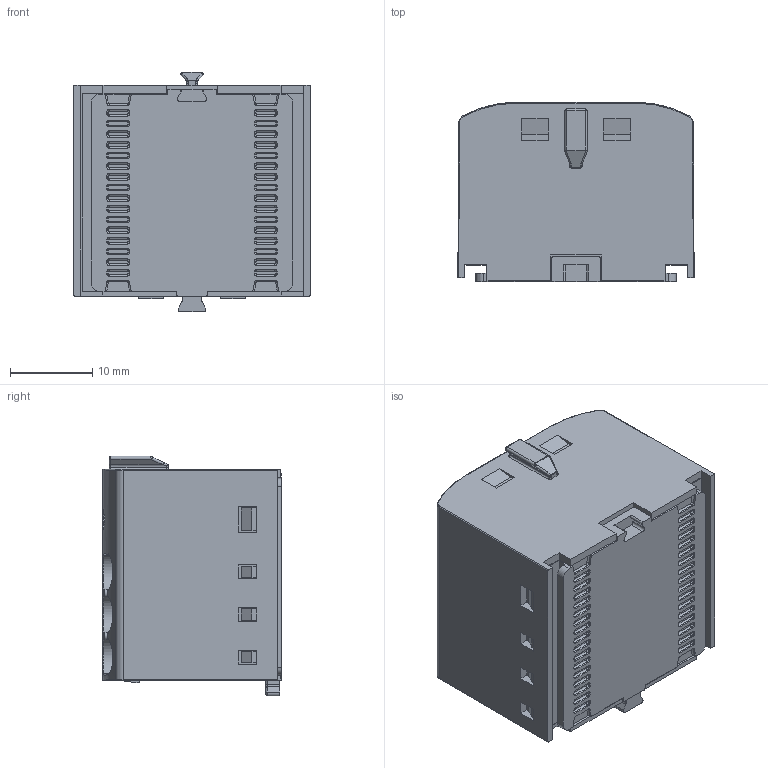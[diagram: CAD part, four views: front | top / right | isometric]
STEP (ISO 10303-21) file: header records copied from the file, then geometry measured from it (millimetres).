
FILE_DESCRIPTION((''),'2;1');
FILE_NAME('JUT15-6X2_5_1_ASSY','2025-01-02T09:54:51',('Administrator'),(''),'CREO PARAMETRIC BY PTC INC, 2018050','CREO PARAMETRIC BY PTC INC, 2018050','');
FILE_SCHEMA(('CONFIG_CONTROL_DESIGN'));
Products named in the file (1): JUT15-6X2_5_1_ASSY
Bounding box: 28.8 x 21.8 x 29.2 mm (x, y, z)
Volume: 12619.1 mm3; surface area: 9886.1 mm2
Topology: 1 solids, 15 shells, 2974 faces, 7632 edges, 4539 vertices
Faces by surface type: cylinder 1229, plane 1118, bspline 229, sphere 204, torus 188, cone 6
Entity records: 95533 total; most frequent: CARTESIAN_POINT 24872, DIRECTION 14893, ORIENTED_EDGE 14884, EDGE_CURVE 7442, AXIS2_PLACEMENT_3D 5363, VERTEX_POINT 4539, VECTOR 4167, LINE 4167
